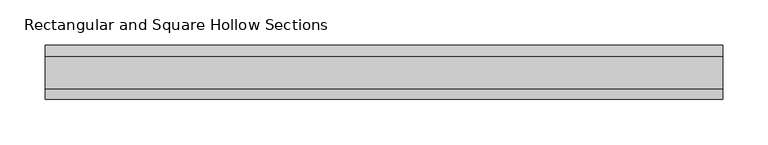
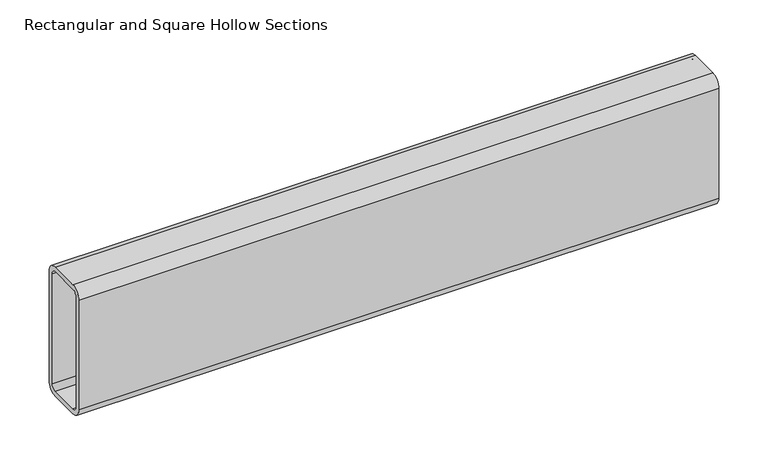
"""IFC4 building model written with IfcOpenShell, lengths in millimetres: beam geometry, Rectangular and Square Hollow Sections : TREC160x60x6."""

import ifcopenshell
import ifcopenshell.guid

model = None  # the IFC model being written
_history = None  # IfcOwnerHistory: only IFC2X3 demands one
_inside = {}  # id of a spatial element -> (the spatial element, [elements in it])
_under = {}  # id of a project, library or spatial element -> (it, [spatial elements below it])
_declared = {}  # id of a project -> (the project, [libraries it declares])
_typed = {}  # id of a type object -> (the type object, [elements of that type])
_made_of = {}  # id of a material, layer set ... -> (it, [elements and type objects made of it])


def new_model(schema):
    """Start an empty IFC model of exactly this schema.

    Asked for "IFC4X3", IfcOpenShell would pick the latest addendum, in which some entities
    have other attributes; the version numbers below select the first issue.
    IFC2X3 requires an IfcOwnerHistory on every rooted entity: one is made here for all.
    """
    global model, _history
    if schema == "IFC4X3":
        model = ifcopenshell.file(schema_version=(4, 3, 0, 0))
    else:
        model = ifcopenshell.file(schema=schema)
    _inside.clear()
    _under.clear()
    _declared.clear()
    _typed.clear()
    _made_of.clear()
    _history = None
    if model.schema == "IFC2X3":
        org = make("IfcOrganization", Name="unknown")
        user = make(
            "IfcPersonAndOrganization",
            ThePerson=make("IfcPerson", FamilyName="unknown"),
            TheOrganization=org,
        )
        app = make(
            "IfcApplication",
            ApplicationDeveloper=org,
            Version="unknown",
            ApplicationFullName="unknown",
            ApplicationIdentifier="unknown",
        )
        _history = make(
            "IfcOwnerHistory",
            OwningUser=user,
            OwningApplication=app,
            ChangeAction="ADDED",
            CreationDate=0,
        )
    return model


def make(cls, **values):
    """One entity of the class cls with the attributes given. An attribute that is None is left unset."""
    return model.create_entity(
        cls, **{name: value for name, value in values.items() if value is not None}
    )


def rooted(cls, **values):
    """An entity with a GlobalId (a new one), such as an element, a storey or a relation."""
    return make(cls, GlobalId=ifcopenshell.guid.new(), OwnerHistory=_history, **values)


def si_unit(unit_type, name, prefix=None):
    """IfcSIUnit, for example si_unit("LENGTHUNIT", "METRE", prefix="MILLI")."""
    return make("IfcSIUnit", UnitType=unit_type, Prefix=prefix, Name=name)


def assignment(units):
    """IfcUnitAssignment: the units of a project."""
    return None if units is None else make("IfcUnitAssignment", Units=units)


def point(xyz):
    """IfcCartesianPoint."""
    return None if xyz is None else make("IfcCartesianPoint", Coordinates=xyz)


def direction(xyz):
    """IfcDirection."""
    return None if xyz is None else make("IfcDirection", DirectionRatios=xyz)


def frame(location, z_axis=None, x_axis=None):
    """IfcAxis2Placement3D, a coordinate frame: its origin and axes. An axis left out is left unset."""
    return make(
        "IfcAxis2Placement3D",
        Location=point(location),
        Axis=direction(z_axis),
        RefDirection=direction(x_axis),
    )


def frame_2d(location, x_axis=None):
    """IfcAxis2Placement2D, a coordinate frame in the plane: its origin and x axis."""
    return make(
        "IfcAxis2Placement2D", Location=point(location), RefDirection=direction(x_axis)
    )


def origin():
    """The frame at (0, 0, 0) with its axes left unset."""
    return frame((0.0, 0.0, 0.0))


def place(relative_to, where):
    """IfcLocalPlacement: puts the frame where relative to a parent placement (None: the world)."""
    return make(
        "IfcLocalPlacement", PlacementRelTo=relative_to, RelativePlacement=where
    )


def context(
    kind, dimensions, precision=None, world=None, true_north=None, identifier=None
):
    """IfcGeometricRepresentationContext, for example the 3D "Model" context."""
    return make(
        "IfcGeometricRepresentationContext",
        ContextIdentifier=identifier,
        ContextType=kind,
        CoordinateSpaceDimension=dimensions,
        Precision=precision,
        WorldCoordinateSystem=world,
        TrueNorth=true_north,
    )


def project(units=None, contexts=None):
    """IfcProject with its units and contexts."""
    return rooted(
        "IfcProject",
        Name="project",
        RepresentationContexts=contexts,
        UnitsInContext=assignment(units),
    )


def spatial(cls, under=None, at=None, **own):
    """A site, building, storey or space (cls), placed at a placement, below another one or the project."""
    s = rooted(cls, ObjectPlacement=at, **own)
    if under is not None:
        _under.setdefault(under.id(), (under, []))[1].append(s)
    return s


def polyline(points):
    """IfcPolyline through the points."""
    return make("IfcPolyline", Points=[point(p) for p in points])


def circle_curve(where, radius):
    """IfcCircle in the frame where."""
    return make("IfcCircle", Position=where, Radius=radius)


def trimmed(basis, trim1, trim2, sense, master):
    """IfcTrimmedCurve: the piece of a basis curve between two trims."""
    return make(
        "IfcTrimmedCurve",
        BasisCurve=basis,
        Trim1=trim1,
        Trim2=trim2,
        SenseAgreement=sense,
        MasterRepresentation=master,
    )


def segment(curve, same_sense, transition):
    """IfcCompositeCurveSegment."""
    return make(
        "IfcCompositeCurveSegment",
        Transition=transition,
        SameSense=same_sense,
        ParentCurve=curve,
    )


def composite_curve(segments, self_intersect=None):
    """IfcCompositeCurve: segments joined end to end."""
    return make("IfcCompositeCurve", Segments=segments, SelfIntersect=self_intersect)


def outline(outer, holes=None, kind="AREA"):
    """IfcArbitraryClosedProfileDef: a profile drawn as a closed curve; with holes, ...WithVoids."""
    if holes is None:
        return make("IfcArbitraryClosedProfileDef", ProfileType=kind, OuterCurve=outer)
    return make(
        "IfcArbitraryProfileDefWithVoids",
        ProfileType=kind,
        OuterCurve=outer,
        InnerCurves=holes,
    )


def extrude(swept, where, along, depth):
    """IfcExtrudedAreaSolid: the profile swept, set in the frame where, extruded along a direction by depth."""
    return make(
        "IfcExtrudedAreaSolid",
        SweptArea=swept,
        Position=where,
        ExtrudedDirection=direction(along),
        Depth=depth,
    )


def shape(context_of_items, identifier, shape_type, items):
    """IfcShapeRepresentation: the items that make up one representation, for example the "Body"."""
    return make(
        "IfcShapeRepresentation",
        ContextOfItems=context_of_items,
        RepresentationIdentifier=identifier,
        RepresentationType=shape_type,
        Items=items,
    )


def source(mapping_origin, context_of_items, identifier, shape_type, items):
    """IfcRepresentationMap: a shape defined once, which mapped items show again and again."""
    return make(
        "IfcRepresentationMap",
        MappingOrigin=mapping_origin,
        MappedRepresentation=shape(context_of_items, identifier, shape_type, items),
    )


def transform(
    local_origin,
    x_axis=None,
    y_axis=None,
    z_axis=None,
    scale=None,
    scale2=None,
    scale3=None,
    uniform=True,
):
    """IfcCartesianTransformationOperator3D, or its non-uniform kind. x_axis, y_axis, z_axis: its Axis1, 2, 3."""
    if uniform:
        return make(
            "IfcCartesianTransformationOperator3D",
            Axis1=direction(x_axis),
            Axis2=direction(y_axis),
            LocalOrigin=point(local_origin),
            Scale=scale,
            Axis3=direction(z_axis),
        )
    return make(
        "IfcCartesianTransformationOperator3DnonUniform",
        Axis1=direction(x_axis),
        Axis2=direction(y_axis),
        LocalOrigin=point(local_origin),
        Scale=scale,
        Axis3=direction(z_axis),
        Scale2=scale2,
        Scale3=scale3,
    )


def mapped(mapping_source, mapping_target):
    """IfcMappedItem: shows the shape of a source again, moved by a transform."""
    return make(
        "IfcMappedItem", MappingSource=mapping_source, MappingTarget=mapping_target
    )


def made_of(thing, what):
    """Note that an element or type object is made of a material, layer set ...; save() writes the relation."""
    if what is not None:
        _made_of.setdefault(what.id(), (what, []))[1].append(thing)
    return thing


def element(
    cls,
    number,
    at=None,
    inside=None,
    cuts=None,
    type_object=None,
    material=None,
    context=None,
    identifier="Body",
    shape_type=None,
    held_by="IfcProductDefinitionShape",
    body=None,
    shapes=None,
    **own,
):
    """One element of the class cls, such as IfcWall. Its Tag is "e" and its number.

    at: its placement. inside: the storey or other place that contains it. cuts: it is an
    opening in that element (IfcRelVoidsElement). A single representation is given by context,
    identifier, shape_type and body (its items); several are given by shapes. held_by: the class
    of the entity that holds the representations. save() writes the other relations.
    """
    e = rooted(cls, Tag="e%d" % number, ObjectPlacement=at, **own)
    if body is not None:
        shapes = [shape(context, identifier, shape_type, body)]
    if shapes is not None:
        e.Representation = make(held_by, Representations=shapes)
    if inside is not None:
        _inside.setdefault(inside.id(), (inside, []))[1].append(e)
    if cuts is not None:
        rooted(
            "IfcRelVoidsElement", RelatingBuildingElement=cuts, RelatedOpeningElement=e
        )
    if type_object is not None:
        _typed.setdefault(type_object.id(), (type_object, []))[1].append(e)
    return made_of(e, material)


def aggregate(whole, parts):
    """IfcRelAggregates: a whole, such as a stair, and the parts it consists of."""
    return rooted("IfcRelAggregates", RelatingObject=whole, RelatedObjects=parts)


def save(model, path):
    """Write the relations noted so far, then the file.

    IfcRelAggregates (storeys below a building ...), IfcRelContainedInSpatialStructure (elements
    in a storey), IfcRelDefinesByType, IfcRelAssociatesMaterial and IfcRelDeclares: one each for
    every whole, place, type object, material and project.
    """
    for whole, parts in _under.values():
        aggregate(whole, parts)
    for where, things in _inside.values():
        rooted(
            "IfcRelContainedInSpatialStructure",
            RelatedElements=things,
            RelatingStructure=where,
        )
    for kind, things in _typed.values():
        rooted("IfcRelDefinesByType", RelatedObjects=things, RelatingType=kind)
    for what, things in _made_of.values():
        rooted("IfcRelAssociatesMaterial", RelatedObjects=things, RelatingMaterial=what)
    for by, libraries in _declared.values():
        rooted("IfcRelDeclares", RelatingContext=by, RelatedDefinitions=libraries)
    model.write(path)


def rectangular_and_square_hollow_sections_b3f778ed(model_context):
    return source(origin(), model_context, "Body", "SweptSolid", [
        extrude(outline(composite_curve([segment(polyline([(30.0, 68.0), (30.0, -68.0)]), True, "CONTINUOUS"), segment(trimmed(circle_curve(frame_2d((18.0, -68.0)), 12.0), [point((30.0, -68.0))], [point((18.0, -80.0))], False, "CARTESIAN"), True, "CONTINUOUS"), segment(polyline([(18.0, -80.0), (-18.0, -80.0)]), True, "CONTINUOUS"), segment(trimmed(circle_curve(frame_2d((-18.0, -68.0)), 12.0), [point((-18.0, -80.0))], [point((-30.0, -68.0))], False, "CARTESIAN"), True, "CONTINUOUS"), segment(polyline([(-30.0, -68.0), (-30.0, 68.0)]), True, "CONTINUOUS"), segment(trimmed(circle_curve(frame_2d((-18.0, 68.0)), 12.0), [point((-30.0, 68.0))], [point((-18.0, 80.0))], False, "CARTESIAN"), True, "CONTINUOUS"), segment(polyline([(-18.0, 80.0), (18.0, 80.0)]), True, "CONTINUOUS"), segment(trimmed(circle_curve(frame_2d((18.0, 68.0)), 12.0), [point((18.0, 80.0))], [point((30.0, 68.0))], False, "CARTESIAN"), True, "CONTINUOUS")], self_intersect=False), holes=[composite_curve([segment(trimmed(circle_curve(frame_2d((-18.0, 68.0)), 6.0), [point((-18.0, 74.0))], [point((-24.0, 68.0))], True, "CARTESIAN"), True, "CONTINUOUS"), segment(polyline([(-24.0, 68.0), (-24.0, -68.0)]), True, "CONTINUOUS"), segment(trimmed(circle_curve(frame_2d((-18.0, -68.0)), 6.0), [point((-24.0, -68.0))], [point((-18.0, -74.0))], True, "CARTESIAN"), True, "CONTINUOUS"), segment(polyline([(-18.0, -74.0), (18.0, -74.0)]), True, "CONTINUOUS"), segment(trimmed(circle_curve(frame_2d((18.0, -68.0)), 6.0), [point((18.0, -74.0))], [point((24.0, -68.0))], True, "CARTESIAN"), True, "CONTINUOUS"), segment(polyline([(24.0, -68.0), (24.0, 68.0)]), True, "CONTINUOUS"), segment(trimmed(circle_curve(frame_2d((18.0, 68.0)), 6.0), [point((24.0, 68.0))], [point((18.0, 74.0))], True, "CARTESIAN"), True, "CONTINUOUS"), segment(polyline([(18.0, 74.0), (-18.0, 74.0)]), True, "CONTINUOUS")], self_intersect=False)]), frame((-368.0, 0.0, 0.0), z_axis=(1.0, 0.0, 0.0), x_axis=(0.0, 1.0, 0.0)), (0.0, 0.0, 1.0), 750.0),
    ])


if __name__ == "__main__":
    model = new_model("IFC4")
    model_context = context("Model", 3, world=origin())
    ifc_project = project(units=[si_unit("LENGTHUNIT", "METRE", prefix="MILLI")], contexts=[model_context])
    site = spatial("IfcSite", under=ifc_project)
    building = spatial("IfcBuilding", under=site)
    placement = place(None, origin())
    rectangular_and_square_hollow_sections_shape = rectangular_and_square_hollow_sections_b3f778ed(model_context)
    element("IfcBeam", 1, ObjectType="Rectangular and Square Hollow Sections : TREC160x60x6", at=placement, inside=building, context=model_context, shape_type="MappedRepresentation", body=[
        mapped(rectangular_and_square_hollow_sections_shape, transform((0.0, 0.0, 0.0), x_axis=(1.0, 0.0, 0.0), y_axis=(0.0, 1.0, 0.0), z_axis=(0.0, 0.0, 1.0))),
    ])
    save(model, "model.ifc")
